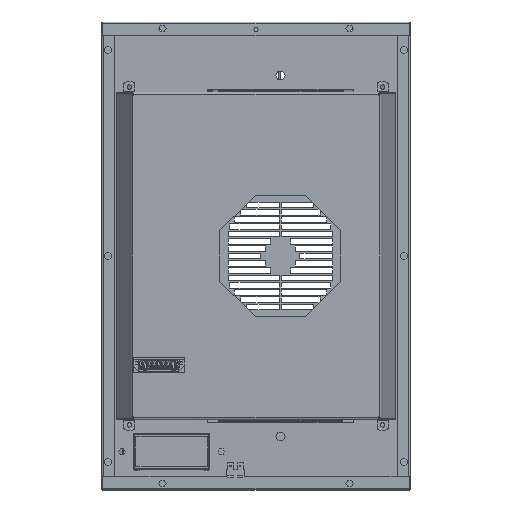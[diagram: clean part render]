
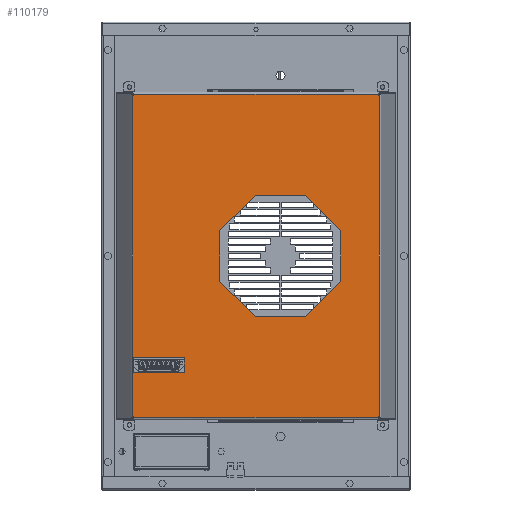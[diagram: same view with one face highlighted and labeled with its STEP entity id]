
A CAD part, front view. The second image highlights one B-rep face of the part: STEP entity #110179.
In plain terms, the highlighted planar face has unit normal (0, -1, 0).
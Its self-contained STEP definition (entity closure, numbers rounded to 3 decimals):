
#107245=DIRECTION('',(-0.707,0.,0.707));
#107246=VECTOR('',#107245,0.5);
#107247=CARTESIAN_POINT('',(105.569,0.,-172.293));
#107248=LINE('',#107247,#107246);
#107249=DIRECTION('',(-0.707,0.,-0.707));
#107250=VECTOR('',#107249,1.);
#107251=CARTESIAN_POINT('',(105.215,0.,-171.939));
#107252=LINE('',#107251,#107250);
#107253=DIRECTION('',(0.707,0.,-0.707));
#107254=VECTOR('',#107253,0.5);
#107255=CARTESIAN_POINT('',(104.508,0.,-172.646));
#107256=LINE('',#107255,#107254);
#107257=DIRECTION('',(0.707,0.,0.707));
#107258=VECTOR('',#107257,0.5);
#107259=CARTESIAN_POINT('',(-156.862,0.,-173.));
#107260=LINE('',#107259,#107258);
#107261=DIRECTION('',(-0.707,0.,0.707));
#107262=VECTOR('',#107261,1.);
#107263=CARTESIAN_POINT('',(-156.508,0.,-172.646));
#107264=LINE('',#107263,#107262);
#107265=DIRECTION('',(-0.707,0.,-0.707));
#107266=VECTOR('',#107265,0.5);
#107267=CARTESIAN_POINT('',(-157.215,0.,-171.939));
#107268=LINE('',#107267,#107266);
#107269=DIRECTION('',(0.707,0.,-0.707));
#107270=VECTOR('',#107269,0.5);
#107271=CARTESIAN_POINT('',(-157.569,0.,172.293));
#107272=LINE('',#107271,#107270);
#107273=DIRECTION('',(0.707,0.,0.707));
#107274=VECTOR('',#107273,1.);
#107275=CARTESIAN_POINT('',(-157.215,0.,171.939));
#107276=LINE('',#107275,#107274);
#107277=DIRECTION('',(-0.707,0.,0.707));
#107278=VECTOR('',#107277,0.5);
#107279=CARTESIAN_POINT('',(-156.508,0.,172.646));
#107280=LINE('',#107279,#107278);
#107281=DIRECTION('',(-0.707,0.,-0.707));
#107282=VECTOR('',#107281,0.5);
#107283=CARTESIAN_POINT('',(104.862,0.,173.));
#107284=LINE('',#107283,#107282);
#107285=DIRECTION('',(0.707,0.,-0.707));
#107286=VECTOR('',#107285,1.);
#107287=CARTESIAN_POINT('',(104.508,0.,172.646));
#107288=LINE('',#107287,#107286);
#107289=DIRECTION('',(0.707,0.,0.707));
#107290=VECTOR('',#107289,0.5);
#107291=CARTESIAN_POINT('',(105.215,0.,171.939));
#107292=LINE('',#107291,#107290);
#107293=DIRECTION('',(-0.707,0.,0.707));
#107294=VECTOR('',#107293,53.576);
#107295=CARTESIAN_POINT('',(64.672,0.,26.788));
#107296=LINE('',#107295,#107294);
#107297=DIRECTION('',(-1.,0.,0.));
#107298=VECTOR('',#107297,53.576);
#107299=CARTESIAN_POINT('',(26.788,0.,64.672));
#107300=LINE('',#107299,#107298);
#107301=DIRECTION('',(-0.707,0.,-0.707));
#107302=VECTOR('',#107301,53.576);
#107303=CARTESIAN_POINT('',(-26.788,0.,64.672));
#107304=LINE('',#107303,#107302);
#107305=DIRECTION('',(0.,0.,-1.));
#107306=VECTOR('',#107305,53.576);
#107307=CARTESIAN_POINT('',(-64.672,0.,26.788));
#107308=LINE('',#107307,#107306);
#107309=DIRECTION('',(0.707,0.,-0.707));
#107310=VECTOR('',#107309,53.576);
#107311=CARTESIAN_POINT('',(-64.672,0.,-26.788));
#107312=LINE('',#107311,#107310);
#107313=DIRECTION('',(1.,0.,0.));
#107314=VECTOR('',#107313,53.576);
#107315=CARTESIAN_POINT('',(-26.788,0.,-64.672));
#107316=LINE('',#107315,#107314);
#107317=DIRECTION('',(0.707,0.,0.707));
#107318=VECTOR('',#107317,53.576);
#107319=CARTESIAN_POINT('',(26.788,0.,-64.672));
#107320=LINE('',#107319,#107318);
#107321=DIRECTION('',(0.,0.,1.));
#107322=VECTOR('',#107321,53.576);
#107323=CARTESIAN_POINT('',(64.672,0.,-26.788));
#107324=LINE('',#107323,#107322);
#107325=DIRECTION('',(1.,0.,0.));
#107326=VECTOR('',#107325,54.529);
#107327=CARTESIAN_POINT('',(-156.964,0.,-124.3));
#107328=LINE('',#107327,#107326);
#107329=DIRECTION('',(0.,0.,1.));
#107330=VECTOR('',#107329,15.6);
#107331=CARTESIAN_POINT('',(-102.436,0.,-124.3));
#107332=LINE('',#107331,#107330);
#107333=DIRECTION('',(-1.,0.,0.));
#107334=VECTOR('',#107333,54.529);
#107335=CARTESIAN_POINT('',(-102.436,0.,-108.7));
#107336=LINE('',#107335,#107334);
#107337=DIRECTION('',(0.,0.,-1.));
#107338=VECTOR('',#107337,15.6);
#107339=CARTESIAN_POINT('',(-156.964,0.,-108.7));
#107340=LINE('',#107339,#107338);
#107356=DIRECTION('',(0.,0.,1.));
#107357=VECTOR('',#107356,344.586);
#107358=CARTESIAN_POINT('',(105.569,0.,-172.293));
#107359=LINE('',#107358,#107357);
#107609=DIRECTION('',(0.,0.,-1.));
#107610=VECTOR('',#107609,344.586);
#107611=CARTESIAN_POINT('',(-157.569,0.,172.293));
#107612=LINE('',#107611,#107610);
#107653=DIRECTION('',(1.,0.,0.));
#107654=VECTOR('',#107653,261.724);
#107655=CARTESIAN_POINT('',(-156.862,0.,-173.));
#107656=LINE('',#107655,#107654);
#109481=DIRECTION('',(-1.,0.,0.));
#109482=VECTOR('',#109481,261.724);
#109483=CARTESIAN_POINT('',(104.862,0.,173.));
#109484=LINE('',#109483,#109482);
#109485=CARTESIAN_POINT('',(105.569,0.,-172.293));
#109486=CARTESIAN_POINT('',(105.215,0.,-171.939));
#109487=VERTEX_POINT('',#109485);
#109488=VERTEX_POINT('',#109486);
#109489=CARTESIAN_POINT('',(104.508,0.,-172.646));
#109490=VERTEX_POINT('',#109489);
#109491=CARTESIAN_POINT('',(104.862,0.,-173.));
#109492=VERTEX_POINT('',#109491);
#109493=CARTESIAN_POINT('',(-156.862,0.,-173.));
#109494=VERTEX_POINT('',#109493);
#109495=CARTESIAN_POINT('',(-156.508,0.,-172.646));
#109496=VERTEX_POINT('',#109495);
#109497=CARTESIAN_POINT('',(-157.215,0.,-171.939));
#109498=VERTEX_POINT('',#109497);
#109499=CARTESIAN_POINT('',(-157.569,0.,-172.293));
#109500=VERTEX_POINT('',#109499);
#109501=CARTESIAN_POINT('',(-157.569,0.,172.293));
#109502=VERTEX_POINT('',#109501);
#109503=CARTESIAN_POINT('',(-157.215,0.,171.939));
#109504=VERTEX_POINT('',#109503);
#109505=CARTESIAN_POINT('',(-156.508,0.,172.646));
#109506=VERTEX_POINT('',#109505);
#109507=CARTESIAN_POINT('',(-156.862,0.,173.));
#109508=VERTEX_POINT('',#109507);
#109509=CARTESIAN_POINT('',(104.862,0.,173.));
#109510=VERTEX_POINT('',#109509);
#109511=CARTESIAN_POINT('',(104.508,0.,172.646));
#109512=VERTEX_POINT('',#109511);
#109513=CARTESIAN_POINT('',(105.215,0.,171.939));
#109514=VERTEX_POINT('',#109513);
#109515=CARTESIAN_POINT('',(105.569,0.,172.293));
#109516=VERTEX_POINT('',#109515);
#109517=CARTESIAN_POINT('',(64.672,0.,26.788));
#109518=CARTESIAN_POINT('',(26.788,0.,64.672));
#109519=VERTEX_POINT('',#109517);
#109520=VERTEX_POINT('',#109518);
#109521=CARTESIAN_POINT('',(-26.788,0.,64.672));
#109522=VERTEX_POINT('',#109521);
#109523=CARTESIAN_POINT('',(-64.672,0.,26.788));
#109524=VERTEX_POINT('',#109523);
#109525=CARTESIAN_POINT('',(-64.672,0.,-26.788));
#109526=VERTEX_POINT('',#109525);
#109527=CARTESIAN_POINT('',(-26.788,0.,-64.672));
#109528=VERTEX_POINT('',#109527);
#109529=CARTESIAN_POINT('',(26.788,0.,-64.672));
#109530=VERTEX_POINT('',#109529);
#109531=CARTESIAN_POINT('',(64.672,0.,-26.788));
#109532=VERTEX_POINT('',#109531);
#109533=CARTESIAN_POINT('',(-156.964,0.,-124.3));
#109534=CARTESIAN_POINT('',(-102.436,0.,-124.3));
#109535=VERTEX_POINT('',#109533);
#109536=VERTEX_POINT('',#109534);
#109537=CARTESIAN_POINT('',(-102.436,0.,-108.7));
#109538=VERTEX_POINT('',#109537);
#109539=CARTESIAN_POINT('',(-156.964,0.,-108.7));
#109540=VERTEX_POINT('',#109539);
#110112=CARTESIAN_POINT('',(0.,0.,0.));
#110113=DIRECTION('',(0.,1.,0.));
#110114=DIRECTION('',(-1.,0.,0.));
#110115=AXIS2_PLACEMENT_3D('',#110112,#110113,#110114);
#110116=PLANE('',#110115);
#110118=ORIENTED_EDGE('',*,*,#110117,.T.);
#110120=ORIENTED_EDGE('',*,*,#110119,.T.);
#110122=ORIENTED_EDGE('',*,*,#110121,.T.);
#110124=ORIENTED_EDGE('',*,*,#110123,.F.);
#110126=ORIENTED_EDGE('',*,*,#110125,.T.);
#110128=ORIENTED_EDGE('',*,*,#110127,.T.);
#110130=ORIENTED_EDGE('',*,*,#110129,.T.);
#110132=ORIENTED_EDGE('',*,*,#110131,.F.);
#110134=ORIENTED_EDGE('',*,*,#110133,.T.);
#110136=ORIENTED_EDGE('',*,*,#110135,.T.);
#110138=ORIENTED_EDGE('',*,*,#110137,.T.);
#110140=ORIENTED_EDGE('',*,*,#110139,.F.);
#110142=ORIENTED_EDGE('',*,*,#110141,.T.);
#110144=ORIENTED_EDGE('',*,*,#110143,.T.);
#110146=ORIENTED_EDGE('',*,*,#110145,.T.);
#110148=ORIENTED_EDGE('',*,*,#110147,.F.);
#110149=EDGE_LOOP('',(#110118,#110120,#110122,#110124,#110126,#110128,#110130,
#110132,#110134,#110136,#110138,#110140,#110142,#110144,#110146,#110148));
#110150=FACE_OUTER_BOUND('',#110149,.F.);
#110152=ORIENTED_EDGE('',*,*,#110151,.T.);
#110154=ORIENTED_EDGE('',*,*,#110153,.T.);
#110156=ORIENTED_EDGE('',*,*,#110155,.T.);
#110158=ORIENTED_EDGE('',*,*,#110157,.T.);
#110160=ORIENTED_EDGE('',*,*,#110159,.T.);
#110162=ORIENTED_EDGE('',*,*,#110161,.T.);
#110164=ORIENTED_EDGE('',*,*,#110163,.T.);
#110166=ORIENTED_EDGE('',*,*,#110165,.T.);
#110167=EDGE_LOOP('',(#110152,#110154,#110156,#110158,#110160,#110162,#110164,
#110166));
#110168=FACE_BOUND('',#110167,.F.);
#110170=ORIENTED_EDGE('',*,*,#110169,.T.);
#110172=ORIENTED_EDGE('',*,*,#110171,.T.);
#110174=ORIENTED_EDGE('',*,*,#110173,.T.);
#110176=ORIENTED_EDGE('',*,*,#110175,.T.);
#110177=EDGE_LOOP('',(#110170,#110172,#110174,#110176));
#110178=FACE_BOUND('',#110177,.F.);
#110117=EDGE_CURVE('',#109487,#109488,#107248,.T.);
#110119=EDGE_CURVE('',#109488,#109490,#107252,.T.);
#110121=EDGE_CURVE('',#109490,#109492,#107256,.T.);
#110123=EDGE_CURVE('',#109494,#109492,#107656,.T.);
#110125=EDGE_CURVE('',#109494,#109496,#107260,.T.);
#110127=EDGE_CURVE('',#109496,#109498,#107264,.T.);
#110129=EDGE_CURVE('',#109498,#109500,#107268,.T.);
#110131=EDGE_CURVE('',#109502,#109500,#107612,.T.);
#110133=EDGE_CURVE('',#109502,#109504,#107272,.T.);
#110135=EDGE_CURVE('',#109504,#109506,#107276,.T.);
#110137=EDGE_CURVE('',#109506,#109508,#107280,.T.);
#110139=EDGE_CURVE('',#109510,#109508,#109484,.T.);
#110141=EDGE_CURVE('',#109510,#109512,#107284,.T.);
#110143=EDGE_CURVE('',#109512,#109514,#107288,.T.);
#110145=EDGE_CURVE('',#109514,#109516,#107292,.T.);
#110147=EDGE_CURVE('',#109487,#109516,#107359,.T.);
#110151=EDGE_CURVE('',#109519,#109520,#107296,.T.);
#110153=EDGE_CURVE('',#109520,#109522,#107300,.T.);
#110155=EDGE_CURVE('',#109522,#109524,#107304,.T.);
#110157=EDGE_CURVE('',#109524,#109526,#107308,.T.);
#110159=EDGE_CURVE('',#109526,#109528,#107312,.T.);
#110161=EDGE_CURVE('',#109528,#109530,#107316,.T.);
#110163=EDGE_CURVE('',#109530,#109532,#107320,.T.);
#110165=EDGE_CURVE('',#109532,#109519,#107324,.T.);
#110169=EDGE_CURVE('',#109535,#109536,#107328,.T.);
#110171=EDGE_CURVE('',#109536,#109538,#107332,.T.);
#110173=EDGE_CURVE('',#109538,#109540,#107336,.T.);
#110175=EDGE_CURVE('',#109540,#109535,#107340,.T.);
#110179=ADVANCED_FACE('',(#110150,#110168,#110178),#110116,.F.);
